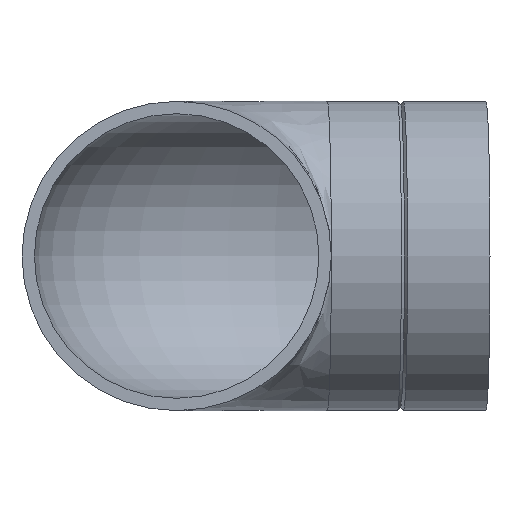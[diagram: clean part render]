
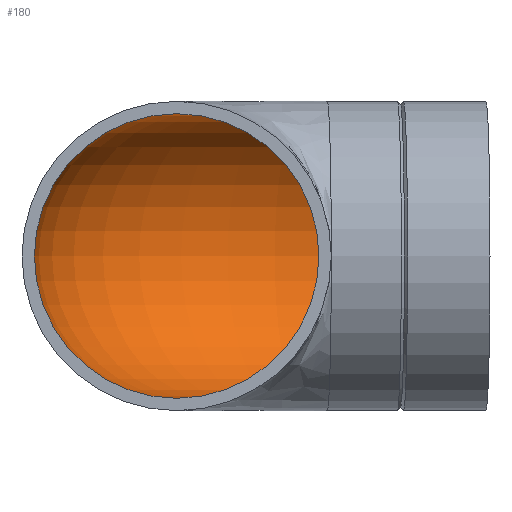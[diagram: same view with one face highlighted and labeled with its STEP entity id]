
A CAD part, front view. The second image highlights one B-rep face of the part: STEP entity #180.
In plain terms, the highlighted toroidal (fillet/blend) face has major radius 37.5 mm and minor radius 34.5 mm.
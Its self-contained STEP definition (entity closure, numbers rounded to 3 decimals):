
#14=TOROIDAL_SURFACE($,#211,37.5,34.5);
#34=FACE_BOUND($,#76,.T.);
#53=FACE_OUTER_BOUND($,#75,.T.);
#75=EDGE_LOOP($,(#152));
#76=EDGE_LOOP($,(#153));
#97=CIRCLE($,#208,34.5);
#99=CIRCLE($,#212,34.5);
#113=VERTEX_POINT($,#354);
#114=VERTEX_POINT($,#359);
#128=EDGE_CURVE($,#113,#113,#97,.T.);
#130=EDGE_CURVE($,#114,#114,#99,.T.);
#152=ORIENTED_EDGE($,*,*,#130,.T.);
#153=ORIENTED_EDGE($,*,*,#128,.F.);
#180=ADVANCED_FACE($,(#53,#34),#14,.F.);
#208=AXIS2_PLACEMENT_3D($,#355,#259,#260);
#211=AXIS2_PLACEMENT_3D($,#358,#265,#266);
#212=AXIS2_PLACEMENT_3D($,#360,#267,#268);
#259=DIRECTION('center_axis',(-1.,-0.026,0.));
#260=DIRECTION('ref_axis',(0.026,-1.,0.));
#265=DIRECTION('center_axis',(0.,0.,-1.));
#266=DIRECTION('ref_axis',(-1.,0.,0.));
#267=DIRECTION('center_axis',(0.,-1.,0.));
#268=DIRECTION('ref_axis',(1.,0.,0.));
#354=CARTESIAN_POINT('',(35.615,109.488,0.));
#355=CARTESIAN_POINT('Origin',(36.518,75.,0.));
#358=CARTESIAN_POINT('Origin',(37.5,37.513,0.));
#359=CARTESIAN_POINT('',(-34.5,37.513,0.));
#360=CARTESIAN_POINT('Origin',(0.,37.513,0.));
